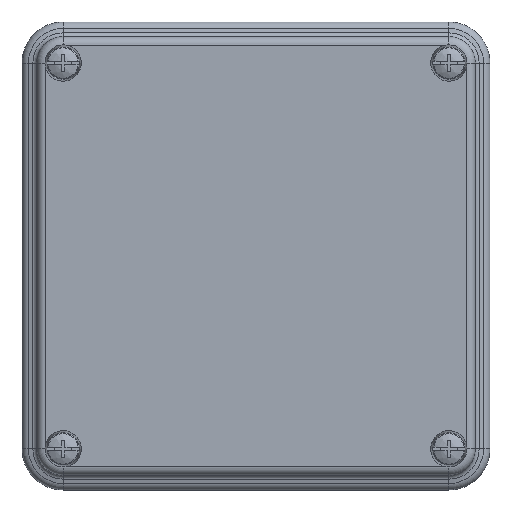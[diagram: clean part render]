
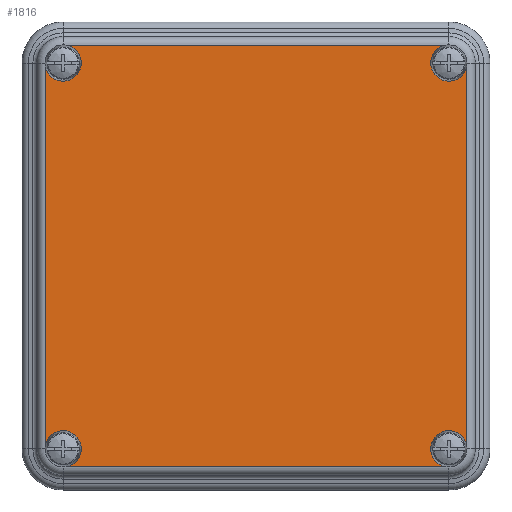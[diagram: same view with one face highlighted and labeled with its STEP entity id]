
A CAD part, top view. The second image highlights one B-rep face of the part: STEP entity #1816.
In plain terms, the highlighted planar face has unit normal (0, 0, 1).
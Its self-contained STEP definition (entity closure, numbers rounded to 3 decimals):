
#1116=CIRCLE('',#11512,4.205);
#1121=CIRCLE('',#11521,4.205);
#1126=CIRCLE('',#11529,4.205);
#1131=CIRCLE('',#11537,4.205);
#1816=ADVANCED_FACE('',(#2690),#2244,.F.);
#2244=PLANE('',#11584);
#2690=FACE_OUTER_BOUND('',#3418,.T.);
#3418=EDGE_LOOP('',(#5927,#5928,#5929,#5930,#5931,#5932,#5933,#5934));
#5927=ORIENTED_EDGE('',*,*,#8742,.T.);
#5928=ORIENTED_EDGE('',*,*,#8665,.T.);
#5929=ORIENTED_EDGE('',*,*,#8743,.T.);
#5930=ORIENTED_EDGE('',*,*,#8654,.T.);
#5931=ORIENTED_EDGE('',*,*,#8744,.T.);
#5932=ORIENTED_EDGE('',*,*,#8643,.T.);
#5933=ORIENTED_EDGE('',*,*,#8745,.T.);
#5934=ORIENTED_EDGE('',*,*,#8628,.T.);
#7296=VERTEX_POINT('',#17891);
#7297=VERTEX_POINT('',#17893);
#7311=VERTEX_POINT('',#17931);
#7312=VERTEX_POINT('',#17933);
#7322=VERTEX_POINT('',#17962);
#7323=VERTEX_POINT('',#17964);
#7333=VERTEX_POINT('',#17993);
#7334=VERTEX_POINT('',#17995);
#8628=EDGE_CURVE('',#7297,#7296,#1116,.T.);
#8643=EDGE_CURVE('',#7312,#7311,#1121,.T.);
#8654=EDGE_CURVE('',#7323,#7322,#1126,.T.);
#8665=EDGE_CURVE('',#7334,#7333,#1131,.T.);
#8742=EDGE_CURVE('',#7296,#7334,#9750,.T.);
#8743=EDGE_CURVE('',#7333,#7323,#9751,.T.);
#8744=EDGE_CURVE('',#7322,#7312,#9752,.T.);
#8745=EDGE_CURVE('',#7311,#7297,#9753,.T.);
#9750=LINE('',#18151,#10584);
#9751=LINE('',#18152,#10585);
#9752=LINE('',#18153,#10586);
#9753=LINE('',#18154,#10587);
#10584=VECTOR('',#14424,1.);
#10585=VECTOR('',#14425,1.);
#10586=VECTOR('',#14426,1.);
#10587=VECTOR('',#14427,1.);
#11512=AXIS2_PLACEMENT_3D('',#17892,#14213,#14214);
#11521=AXIS2_PLACEMENT_3D('',#17932,#14239,#14240);
#11529=AXIS2_PLACEMENT_3D('',#17963,#14259,#14260);
#11537=AXIS2_PLACEMENT_3D('',#17994,#14279,#14280);
#11584=AXIS2_PLACEMENT_3D('',#18155,#14428,#14429);
#14213=DIRECTION('',(0.,0.,-1.));
#14214=DIRECTION('',(-1.,0.,0.));
#14239=DIRECTION('',(0.,0.,-1.));
#14240=DIRECTION('',(-1.,0.,0.));
#14259=DIRECTION('',(0.,0.,-1.));
#14260=DIRECTION('',(-1.,0.,0.));
#14279=DIRECTION('',(0.,0.,-1.));
#14280=DIRECTION('',(-1.,0.,0.));
#14424=DIRECTION('',(0.,-1.,0.));
#14425=DIRECTION('',(1.,0.,0.));
#14426=DIRECTION('',(0.,1.,0.));
#14427=DIRECTION('',(-1.,0.,0.));
#14428=DIRECTION('',(0.,0.,-1.));
#14429=DIRECTION('',(-1.,0.,0.));
#17891=CARTESIAN_POINT('',(-48.7,43.666,86.3));
#17892=CARTESIAN_POINT('',(-44.6,44.6,86.3));
#17893=CARTESIAN_POINT('',(-43.666,48.7,86.3));
#17931=CARTESIAN_POINT('',(43.666,48.7,86.3));
#17932=CARTESIAN_POINT('',(44.6,44.6,86.3));
#17933=CARTESIAN_POINT('',(48.7,43.666,86.3));
#17962=CARTESIAN_POINT('',(48.7,-43.666,86.3));
#17963=CARTESIAN_POINT('',(44.6,-44.6,86.3));
#17964=CARTESIAN_POINT('',(43.666,-48.7,86.3));
#17993=CARTESIAN_POINT('',(-43.666,-48.7,86.3));
#17994=CARTESIAN_POINT('',(-44.6,-44.6,86.3));
#17995=CARTESIAN_POINT('',(-48.7,-43.666,86.3));
#18151=CARTESIAN_POINT('',(-48.7,-44.6,86.3));
#18152=CARTESIAN_POINT('',(44.6,-48.7,86.3));
#18153=CARTESIAN_POINT('',(48.7,44.6,86.3));
#18154=CARTESIAN_POINT('',(-44.6,48.7,86.3));
#18155=CARTESIAN_POINT('',(-44.6,-44.6,86.3));
